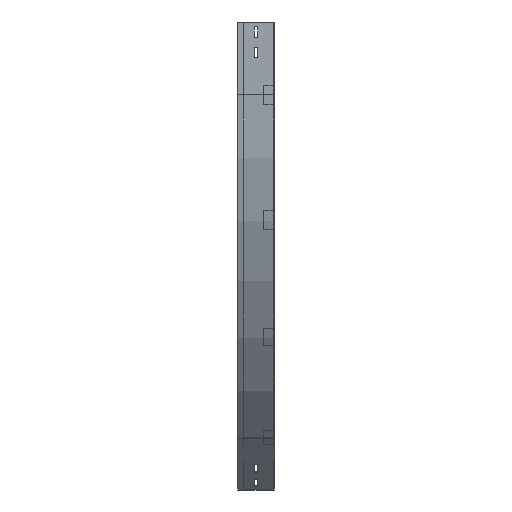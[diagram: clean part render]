
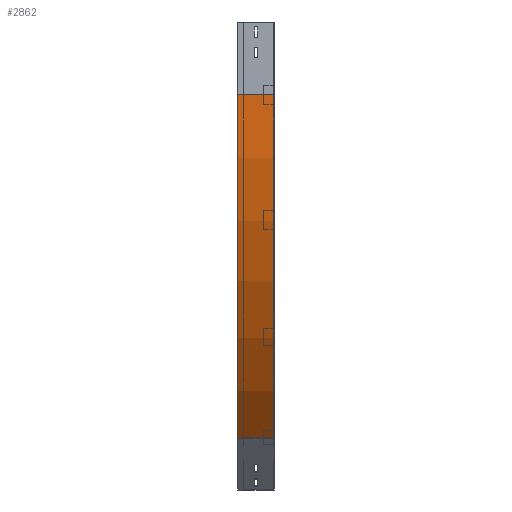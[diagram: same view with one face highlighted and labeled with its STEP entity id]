
A CAD part, left-side view. The second image highlights one B-rep face of the part: STEP entity #2862.
In plain terms, the highlighted cylindrical face has radius 1000 mm (diameter 2000 mm), a partial arc.
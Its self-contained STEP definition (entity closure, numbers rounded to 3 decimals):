
#90 = CIRCLE ( 'NONE', #1894, 1000. ) ;
#100 = VERTEX_POINT ( 'NONE', #943 ) ;
#107 = LINE ( 'NONE', #937, #194 ) ;
#182 = FACE_OUTER_BOUND ( 'NONE', #2849, .T. ) ;
#194 = VECTOR ( 'NONE', #342, 1000. ) ;
#208 = DIRECTION ( 'NONE',  ( -1., 0., 0. ) ) ;
#342 = DIRECTION ( 'NONE',  ( 0., -1., 0. ) ) ;
#441 = DIRECTION ( 'NONE',  ( 0., -1., 0. ) ) ;
#465 = AXIS2_PLACEMENT_3D ( 'NONE', #3513, #1957, #208 ) ;
#541 = EDGE_CURVE ( 'NONE', #100, #1613, #3349, .T. ) ;
#564 = ORIENTED_EDGE ( 'NONE', *, *, #594, .F. ) ;
#594 = EDGE_CURVE ( 'NONE', #2775, #1613, #90, .T. ) ;
#671 = CARTESIAN_POINT ( 'NONE',  ( 292.893, 0., -857.107 ) ) ;
#901 = VECTOR ( 'NONE', #997, 1000. ) ;
#937 = CARTESIAN_POINT ( 'NONE',  ( 0., 0., -150. ) ) ;
#943 = CARTESIAN_POINT ( 'NONE',  ( 292.893, 75., -857.107 ) ) ;
#997 = DIRECTION ( 'NONE',  ( 0., -1., 0. ) ) ;
#1435 = CARTESIAN_POINT ( 'NONE',  ( 1000., 0., -150. ) ) ;
#1613 = VERTEX_POINT ( 'NONE', #3360 ) ;
#1740 = ORIENTED_EDGE ( 'NONE', *, *, #1856, .F. ) ;
#1856 = EDGE_CURVE ( 'NONE', #2565, #2775, #107, .T. ) ;
#1894 = AXIS2_PLACEMENT_3D ( 'NONE', #1435, #2919, #3206 ) ;
#1931 = CARTESIAN_POINT ( 'NONE',  ( 1000., 0., -150. ) ) ;
#1957 = DIRECTION ( 'NONE',  ( 0., -1., 0. ) ) ;
#2221 = DIRECTION ( 'NONE',  ( 0., 0., -1. ) ) ;
#2280 = CARTESIAN_POINT ( 'NONE',  ( 0., 0., -150. ) ) ;
#2565 = VERTEX_POINT ( 'NONE', #3854 ) ;
#2704 = AXIS2_PLACEMENT_3D ( 'NONE', #1931, #441, #2221 ) ;
#2775 = VERTEX_POINT ( 'NONE', #2280 ) ;
#2849 = EDGE_LOOP ( 'NONE', ( #564, #1740, #3332, #3619 ) ) ;
#2862 = ADVANCED_FACE ( 'NONE', ( #182 ), #3472, .T. ) ;
#2904 = CIRCLE ( 'NONE', #465, 1000. ) ;
#2919 = DIRECTION ( 'NONE',  ( 0., -1., 0. ) ) ;
#3206 = DIRECTION ( 'NONE',  ( -1., 0., 0. ) ) ;
#3332 = ORIENTED_EDGE ( 'NONE', *, *, #3683, .T. ) ;
#3349 = LINE ( 'NONE', #671, #901 ) ;
#3360 = CARTESIAN_POINT ( 'NONE',  ( 292.893, 0., -857.107 ) ) ;
#3472 = CYLINDRICAL_SURFACE ( 'NONE', #2704, 1000. ) ;
#3513 = CARTESIAN_POINT ( 'NONE',  ( 1000., 75., -150. ) ) ;
#3619 = ORIENTED_EDGE ( 'NONE', *, *, #541, .T. ) ;
#3683 = EDGE_CURVE ( 'NONE', #2565, #100, #2904, .T. ) ;
#3854 = CARTESIAN_POINT ( 'NONE',  ( 0., 75., -150. ) ) ;
